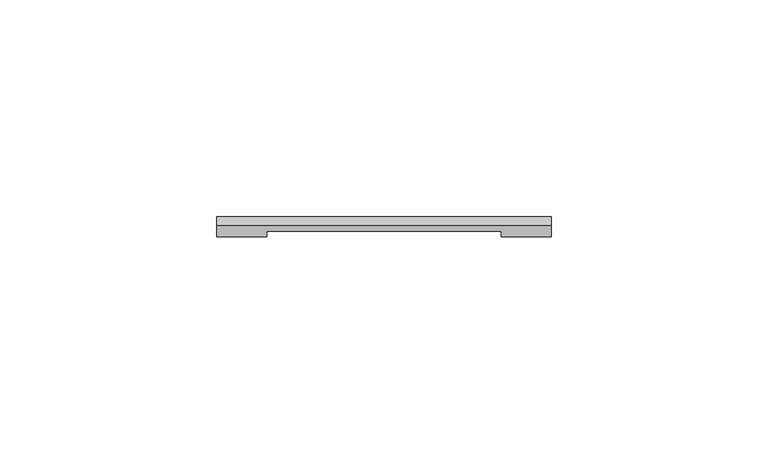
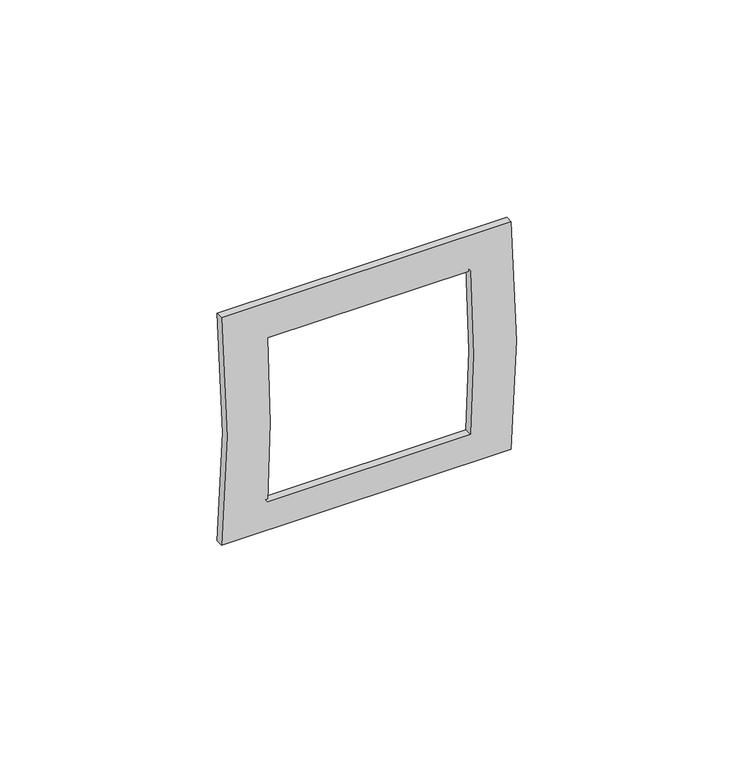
"""IFC4 building model written with IfcOpenShell, lengths in millimetres: proxy geometry, КНС_РамкаУниверсальная_ILF_DKC : 2 модуля."""

import ifcopenshell
import ifcopenshell.guid

model = None  # the IFC model being written
_history = None  # IfcOwnerHistory: only IFC2X3 demands one
_inside = {}  # id of a spatial element -> (the spatial element, [elements in it])
_under = {}  # id of a project, library or spatial element -> (it, [spatial elements below it])
_declared = {}  # id of a project -> (the project, [libraries it declares])
_typed = {}  # id of a type object -> (the type object, [elements of that type])
_made_of = {}  # id of a material, layer set ... -> (it, [elements and type objects made of it])


def new_model(schema):
    """Start an empty IFC model of exactly this schema.

    Asked for "IFC4X3", IfcOpenShell would pick the latest addendum, in which some entities
    have other attributes; the version numbers below select the first issue.
    IFC2X3 requires an IfcOwnerHistory on every rooted entity: one is made here for all.
    """
    global model, _history
    if schema == "IFC4X3":
        model = ifcopenshell.file(schema_version=(4, 3, 0, 0))
    else:
        model = ifcopenshell.file(schema=schema)
    _inside.clear()
    _under.clear()
    _declared.clear()
    _typed.clear()
    _made_of.clear()
    _history = None
    if model.schema == "IFC2X3":
        org = make("IfcOrganization", Name="unknown")
        user = make(
            "IfcPersonAndOrganization",
            ThePerson=make("IfcPerson", FamilyName="unknown"),
            TheOrganization=org,
        )
        app = make(
            "IfcApplication",
            ApplicationDeveloper=org,
            Version="unknown",
            ApplicationFullName="unknown",
            ApplicationIdentifier="unknown",
        )
        _history = make(
            "IfcOwnerHistory",
            OwningUser=user,
            OwningApplication=app,
            ChangeAction="ADDED",
            CreationDate=0,
        )
    return model


def make(cls, **values):
    """One entity of the class cls with the attributes given. An attribute that is None is left unset."""
    return model.create_entity(
        cls, **{name: value for name, value in values.items() if value is not None}
    )


def rooted(cls, **values):
    """An entity with a GlobalId (a new one), such as an element, a storey or a relation."""
    return make(cls, GlobalId=ifcopenshell.guid.new(), OwnerHistory=_history, **values)


def si_unit(unit_type, name, prefix=None):
    """IfcSIUnit, for example si_unit("LENGTHUNIT", "METRE", prefix="MILLI")."""
    return make("IfcSIUnit", UnitType=unit_type, Prefix=prefix, Name=name)


def assignment(units):
    """IfcUnitAssignment: the units of a project."""
    return None if units is None else make("IfcUnitAssignment", Units=units)


def point(xyz):
    """IfcCartesianPoint."""
    return None if xyz is None else make("IfcCartesianPoint", Coordinates=xyz)


def direction(xyz):
    """IfcDirection."""
    return None if xyz is None else make("IfcDirection", DirectionRatios=xyz)


def frame(location, z_axis=None, x_axis=None):
    """IfcAxis2Placement3D, a coordinate frame: its origin and axes. An axis left out is left unset."""
    return make(
        "IfcAxis2Placement3D",
        Location=point(location),
        Axis=direction(z_axis),
        RefDirection=direction(x_axis),
    )


def origin():
    """The frame at (0, 0, 0) with its axes left unset."""
    return frame((0.0, 0.0, 0.0))


def place(relative_to, where):
    """IfcLocalPlacement: puts the frame where relative to a parent placement (None: the world)."""
    return make(
        "IfcLocalPlacement", PlacementRelTo=relative_to, RelativePlacement=where
    )


def context(
    kind, dimensions, precision=None, world=None, true_north=None, identifier=None
):
    """IfcGeometricRepresentationContext, for example the 3D "Model" context."""
    return make(
        "IfcGeometricRepresentationContext",
        ContextIdentifier=identifier,
        ContextType=kind,
        CoordinateSpaceDimension=dimensions,
        Precision=precision,
        WorldCoordinateSystem=world,
        TrueNorth=true_north,
    )


def project(units=None, contexts=None):
    """IfcProject with its units and contexts."""
    return rooted(
        "IfcProject",
        Name="project",
        RepresentationContexts=contexts,
        UnitsInContext=assignment(units),
    )


def spatial(cls, under=None, at=None, **own):
    """A site, building, storey or space (cls), placed at a placement, below another one or the project."""
    s = rooted(cls, ObjectPlacement=at, **own)
    if under is not None:
        _under.setdefault(under.id(), (under, []))[1].append(s)
    return s


def polyline(points):
    """IfcPolyline through the points."""
    return make("IfcPolyline", Points=[point(p) for p in points])


def circle_curve(where, radius):
    """IfcCircle in the frame where."""
    return make("IfcCircle", Position=where, Radius=radius)


def shape(context_of_items, identifier, shape_type, items):
    """IfcShapeRepresentation: the items that make up one representation, for example the "Body"."""
    return make(
        "IfcShapeRepresentation",
        ContextOfItems=context_of_items,
        RepresentationIdentifier=identifier,
        RepresentationType=shape_type,
        Items=items,
    )


def source(mapping_origin, context_of_items, identifier, shape_type, items):
    """IfcRepresentationMap: a shape defined once, which mapped items show again and again."""
    return make(
        "IfcRepresentationMap",
        MappingOrigin=mapping_origin,
        MappedRepresentation=shape(context_of_items, identifier, shape_type, items),
    )


def transform(
    local_origin,
    x_axis=None,
    y_axis=None,
    z_axis=None,
    scale=None,
    scale2=None,
    scale3=None,
    uniform=True,
):
    """IfcCartesianTransformationOperator3D, or its non-uniform kind. x_axis, y_axis, z_axis: its Axis1, 2, 3."""
    if uniform:
        return make(
            "IfcCartesianTransformationOperator3D",
            Axis1=direction(x_axis),
            Axis2=direction(y_axis),
            LocalOrigin=point(local_origin),
            Scale=scale,
            Axis3=direction(z_axis),
        )
    return make(
        "IfcCartesianTransformationOperator3DnonUniform",
        Axis1=direction(x_axis),
        Axis2=direction(y_axis),
        LocalOrigin=point(local_origin),
        Scale=scale,
        Axis3=direction(z_axis),
        Scale2=scale2,
        Scale3=scale3,
    )


def mapped(mapping_source, mapping_target):
    """IfcMappedItem: shows the shape of a source again, moved by a transform."""
    return make(
        "IfcMappedItem", MappingSource=mapping_source, MappingTarget=mapping_target
    )


def made_of(thing, what):
    """Note that an element or type object is made of a material, layer set ...; save() writes the relation."""
    if what is not None:
        _made_of.setdefault(what.id(), (what, []))[1].append(thing)
    return thing


def element(
    cls,
    number,
    at=None,
    inside=None,
    cuts=None,
    type_object=None,
    material=None,
    context=None,
    identifier="Body",
    shape_type=None,
    held_by="IfcProductDefinitionShape",
    body=None,
    shapes=None,
    **own,
):
    """One element of the class cls, such as IfcWall. Its Tag is "e" and its number.

    at: its placement. inside: the storey or other place that contains it. cuts: it is an
    opening in that element (IfcRelVoidsElement). A single representation is given by context,
    identifier, shape_type and body (its items); several are given by shapes. held_by: the class
    of the entity that holds the representations. save() writes the other relations.
    """
    e = rooted(cls, Tag="e%d" % number, ObjectPlacement=at, **own)
    if body is not None:
        shapes = [shape(context, identifier, shape_type, body)]
    if shapes is not None:
        e.Representation = make(held_by, Representations=shapes)
    if inside is not None:
        _inside.setdefault(inside.id(), (inside, []))[1].append(e)
    if cuts is not None:
        rooted(
            "IfcRelVoidsElement", RelatingBuildingElement=cuts, RelatedOpeningElement=e
        )
    if type_object is not None:
        _typed.setdefault(type_object.id(), (type_object, []))[1].append(e)
    return made_of(e, material)


def aggregate(whole, parts):
    """IfcRelAggregates: a whole, such as a stair, and the parts it consists of."""
    return rooted("IfcRelAggregates", RelatingObject=whole, RelatedObjects=parts)


def save(model, path):
    """Write the relations noted so far, then the file.

    IfcRelAggregates (storeys below a building ...), IfcRelContainedInSpatialStructure (elements
    in a storey), IfcRelDefinesByType, IfcRelAssociatesMaterial and IfcRelDeclares: one each for
    every whole, place, type object, material and project.
    """
    for whole, parts in _under.values():
        aggregate(whole, parts)
    for where, things in _inside.values():
        rooted(
            "IfcRelContainedInSpatialStructure",
            RelatedElements=things,
            RelatingStructure=where,
        )
    for kind, things in _typed.values():
        rooted("IfcRelDefinesByType", RelatedObjects=things, RelatingType=kind)
    for what, things in _made_of.values():
        rooted("IfcRelAssociatesMaterial", RelatedObjects=things, RelatingMaterial=what)
    for by, libraries in _declared.values():
        rooted("IfcRelDeclares", RelatingContext=by, RelatedDefinitions=libraries)
    model.write(path)


def plane_surface(at):
    """IfcPlane: the flat surface through the origin of the frame at, square to its z axis."""
    return make("IfcPlane", Position=at)


def cylinder_surface(at, radius):
    """IfcCylindricalSurface: all points at the distance radius from the z axis of the frame at."""
    return make("IfcCylindricalSurface", Position=at, Radius=radius)


def revolved_surface(curve, axis_point, axis_direction):
    """IfcSurfaceOfRevolution: the curve turned about the line through axis_point along axis_direction."""
    return make(
        "IfcSurfaceOfRevolution",
        SweptCurve=make("IfcArbitraryOpenProfileDef", ProfileType="CURVE", Curve=curve),
        AxisPosition=make("IfcAxis1Placement", Location=point(axis_point), Axis=direction(axis_direction)),
    )


def advanced_brep(points, edges, surfaces, faces):
    """IfcAdvancedBrep: a solid bounded by faces that lie on surfaces and meet in shared edges.

    An edge is (start, end): straight between two places in points (the first is 0);
    or (start, end, curve); or (start, end, curve, False) where it runs against its curve.
    A face is (place in surfaces, loops), or (place, loops, False) where it looks against
    its surface's normal. A loop lists edges by number (the first is 1), with a minus sign
    where the edge is run from its end to its start. The first loop is the outer one.
    """
    corners = [point(p) for p in points]
    vertices = [make("IfcVertexPoint", VertexGeometry=c) for c in corners]
    made = []
    for start, end, *more in edges:
        made.append(
            make(
                "IfcEdgeCurve",
                EdgeStart=vertices[start],
                EdgeEnd=vertices[end],
                EdgeGeometry=more[0] if more else make("IfcPolyline", Points=[corners[start], corners[end]]),
                SameSense=more[1] if len(more) > 1 else True,
            )
        )
    hull = []
    for where, loops, *sense in faces:
        bounds = []
        for j, loop in enumerate(loops):
            ring = [make("IfcOrientedEdge", EdgeElement=made[abs(k) - 1], Orientation=k > 0) for k in loop]
            bounds.append(
                make(
                    "IfcFaceOuterBound" if j == 0 else "IfcFaceBound",
                    Bound=make("IfcEdgeLoop", EdgeList=ring),
                    Orientation=True,
                )
            )
        hull.append(make("IfcAdvancedFace", Bounds=bounds, FaceSurface=surfaces[where], SameSense=sense[0] if sense else True))
    return make("IfcAdvancedBrep", Outer=make("IfcClosedShell", CfsFaces=hull))


def electrical_fixtures_4c8f32d7(model_context):
    return source(origin(), model_context, "Body", "AdvancedBrep", [
        advanced_brep(
        [(27.0, -3.2414184, 22.9768143), (27.0, -1.2414184, 22.9768143), (27.0, -1.2414184, -22.9768143), (27.0, -3.2414184, -22.9768143), (-27.0, -3.2414184, -22.9768143), (-27.0, -1.2414184, -22.9768143), (-27.0, -1.2414184, 22.9768143), (-27.0, -3.2414184, 22.9768143), (38.5, -2.0, 31.9768143), (38.5, -2.0, -31.9768143), (38.5, 0.0, -31.9768143), (38.5, 0.0, 31.9768143), (-38.5, -2.0, 31.9768143), (-38.5, 0.0, 31.9768143), (-38.5, 0.0, -31.9768143), (-38.5, -2.0, -31.9768143)],
        [
            (0, 1),
            (1, 2, circle_curve(frame((27.0, 198.5799224, 0.0), z_axis=(1.0, 0.0, 0.0), x_axis=(0.0, 1.0, 0.0)), 201.1380178)),
            (2, 3),
            (3, 0, circle_curve(frame((27.0, 196.5799224, 0.0), z_axis=(-1.0, 0.0, 0.0), x_axis=(0.0, 1.0, 0.0)), 201.1380178)),
            (4, 5),
            (5, 6, circle_curve(frame((-27.0, 198.5799224, 0.0), z_axis=(-1.0, 0.0, 0.0), x_axis=(0.0, 1.0, 0.0)), 201.1380178)),
            (6, 7),
            (7, 4, circle_curve(frame((-27.0, 196.5799224, 0.0), z_axis=(1.0, 0.0, 0.0), x_axis=(0.0, 1.0, 0.0)), 201.1380178)),
            (0, 7),
            (6, 1),
            (2, 5),
            (4, 3),
            (8, 9, circle_curve(frame((38.5, 196.5799224, 0.0), z_axis=(1.0, 0.0, 0.0), x_axis=(0.0, 1.0, 0.0)), 201.1380178)),
            (9, 10),
            (10, 11, circle_curve(frame((38.5, 198.5799224, 0.0), z_axis=(-1.0, 0.0, 0.0), x_axis=(0.0, 1.0, 0.0)), 201.1380178)),
            (11, 8),
            (12, 13),
            (13, 14, circle_curve(frame((-38.5, 198.5799224, 0.0), z_axis=(1.0, 0.0, 0.0), x_axis=(0.0, 1.0, 0.0)), 201.1380178)),
            (14, 15),
            (15, 12, circle_curve(frame((-38.5, 196.5799224, 0.0), z_axis=(-1.0, 0.0, 0.0), x_axis=(0.0, 1.0, 0.0)), 201.1380178)),
            (8, 12),
            (15, 9),
            (14, 10),
            (13, 11),
        ],
        [
            plane_surface(frame((27.0, 397.7179402, 0.0), z_axis=(-1.0, 0.0, 0.0), x_axis=(0.0, 0.0, 1.0))),
            plane_surface(frame((-27.0, 397.7179402, 0.0), z_axis=(1.0, 0.0, 0.0), x_axis=(0.0, 0.0, -1.0))),
            plane_surface(frame((27.0, -1.2414184, 22.9768143), z_axis=(0.0, 0.0, -1.0), x_axis=(-1.0, 0.0, 0.0))),
            plane_surface(frame((27.0, -3.2414184, -22.9768143), z_axis=(0.0, 0.0, 1.0), x_axis=(-1.0, 0.0, 0.0))),
            plane_surface(frame((38.5, 397.7179402, 0.0), z_axis=(1.0, 0.0, 0.0), x_axis=(0.0, 0.0, 1.0))),
            plane_surface(frame((-38.5, 397.7179402, 0.0), z_axis=(-1.0, 0.0, 0.0), x_axis=(0.0, 0.0, -1.0))),
            cylinder_surface(frame((-38.5, 196.5799224, 0.0), z_axis=(1.0, 0.0, 0.0), x_axis=(0.0, 1.0, 0.0)), 201.1380178),
            plane_surface(frame((38.5, -2.0, -31.9768143), z_axis=(0.0, 0.0, -1.0), x_axis=(-1.0, 0.0, 0.0))),
            revolved_surface(polyline([(-38.5, 399.7179402, 0.0), (38.5, 399.7179402, 0.0)]), (-38.5, 198.5799224, 0.0), (-1.0, 0.0, 0.0)),
            plane_surface(frame((38.5, 0.0, 31.9768143), z_axis=(0.0, 0.0, 1.0), x_axis=(-1.0, 0.0, 0.0))),
        ],
        [
            (0, [[1, 2, 3, 4]]),
            (1, [[5, 6, 7, 8]]),
            (2, [[-1, 9, -7, 10]]),
            (3, [[-3, 11, -5, 12]]),
            (4, [[13, 14, 15, 16]]),
            (5, [[17, 18, 19, 20]]),
            (6, [[-13, 21, -20, 22], [-4, -12, -8, -9]]),
            (7, [[-14, -22, -19, 23]]),
            (8, [[-15, -23, -18, 24], [-2, -10, -6, -11]]),
            (9, [[-16, -24, -17, -21]]),
        ],
    ),
    ])


if __name__ == "__main__":
    model = new_model("IFC4")
    model_context = context("Model", 3, world=origin())
    ifc_project = project(units=[si_unit("LENGTHUNIT", "METRE", prefix="MILLI")], contexts=[model_context])
    site = spatial("IfcSite", under=ifc_project)
    building = spatial("IfcBuilding", under=site)
    placement = place(None, origin())
    electrical_fixtures_shape = electrical_fixtures_4c8f32d7(model_context)
    element("IfcBuildingElementProxy", 1, Name="КНС_РамкаУниверсальная_ILF_DKC : 2 модуля", ObjectType="КНС_РамкаУниверсальная_ILF_DKC : 2 модуля", at=placement, inside=building, context=model_context, shape_type="MappedRepresentation", body=[
        mapped(electrical_fixtures_shape, transform((0.0, 0.0, 0.0), x_axis=(1.0, 0.0, 0.0), y_axis=(0.0, 1.0, 0.0), z_axis=(0.0, 0.0, 1.0))),
    ])
    save(model, "model.ifc")
